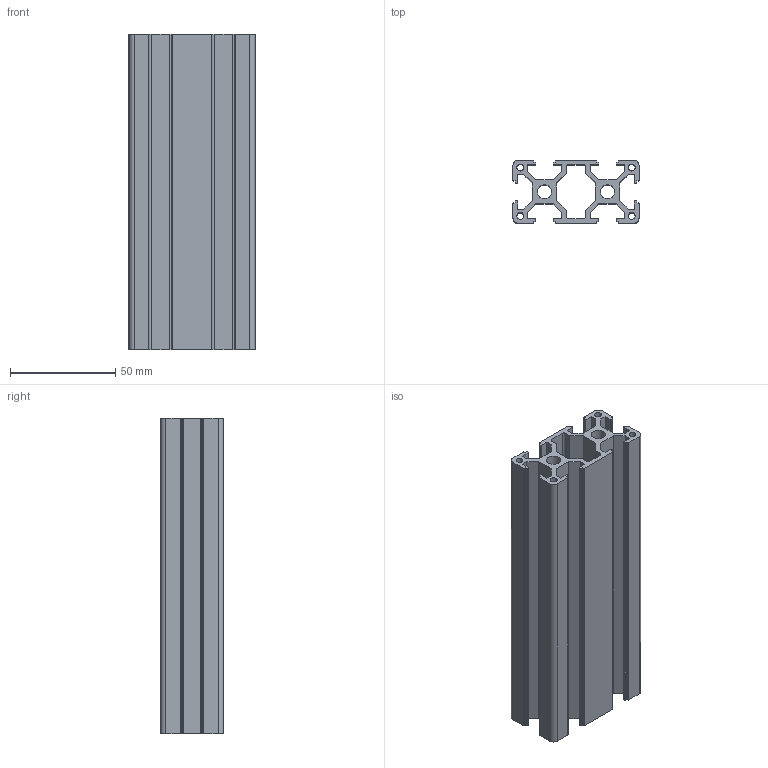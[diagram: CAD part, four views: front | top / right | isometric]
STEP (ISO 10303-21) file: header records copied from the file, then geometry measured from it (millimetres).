
FILE_DESCRIPTION((''),'2;1');
FILE_NAME('E:\catalogue and flyer\Profile catalogue 2015\profile-step file,31MAr16\PS3060-8.stp','2016-03-31T13:48:23',('h029'),(''),'Autodesk Inventor 11','Autodesk Inventor 11','');
FILE_SCHEMA(('AUTOMOTIVE_DESIGN { 1 0 10303 214 1 1 1 1 }'));
Length unit declared in the file: millimetre
Products named in the file (1): ps3060-8
Bounding box: 60 x 30 x 150 mm (x, y, z)
Volume: 92193.8 mm3; surface area: 78096.1 mm2
Topology: 1 solids, 1 shells, 156 faces, 462 edges, 308 vertices
Faces by surface type: plane 102, cylinder 54
Full cylindrical faces by diameter (mm): 3.3 x4, 6.8 x2
Entity records: 5235 total; most frequent: CARTESIAN_POINT 921, ORIENTED_EDGE 912, DIRECTION 878, EDGE_CURVE 456, VECTOR 348, LINE 348, VERTEX_POINT 308, AXIS2_PLACEMENT_3D 265
